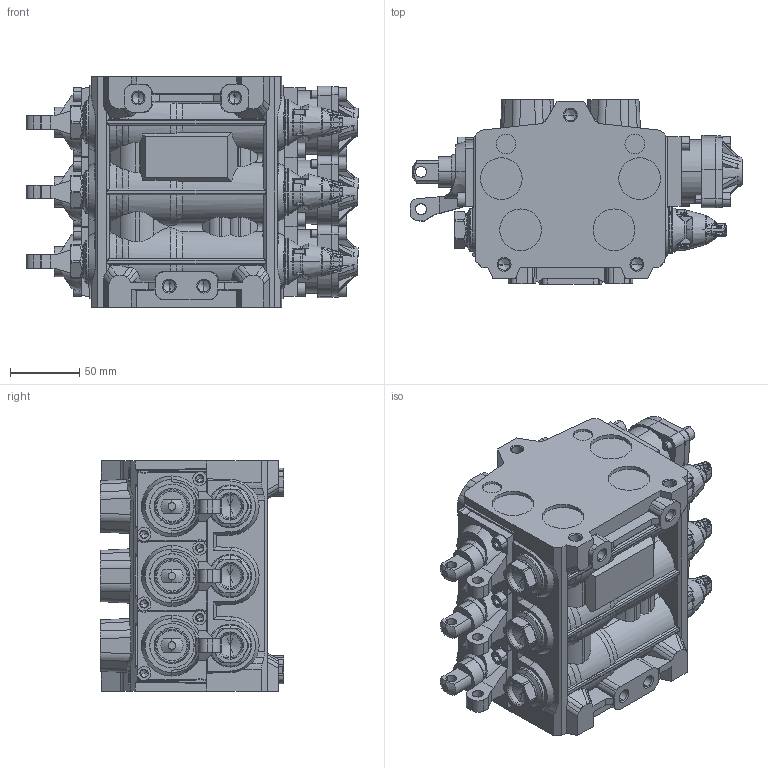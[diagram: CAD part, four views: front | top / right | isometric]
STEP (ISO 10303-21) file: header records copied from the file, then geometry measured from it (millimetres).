
FILE_DESCRIPTION (( 'STEP AP203' ), '1' );
FILE_NAME ('S-V3263B.STEP', '2018-05-22T06:25:16', ( '' ), ( '' ), 'SwSTEP 2.0', 'SolidWorks 2018', '' );
FILE_SCHEMA (( 'CONFIG_CONTROL_DESIGN' ));
Products named in the file (1): S-V3263B
Bounding box: 240 x 133 x 166.6 mm (x, y, z)
Surface area: 313384.4 mm2 (no closed solid volume)
Topology: 0 solids, 49 shells, 4513 faces, 11386 edges, 6792 vertices
Faces by surface type: plane 1345, bspline 1343, cylinder 1125, cone 484, torus 162, sphere 54
Entity records: 192295 total; most frequent: CARTESIAN_POINT 99432, ORIENTED_EDGE 21796, DIRECTION 15804, EDGE_CURVE 11126, VERTEX_POINT 6792, AXIS2_PLACEMENT_3D 5866, EDGE_LOOP 4723, ADVANCED_FACE 4513
